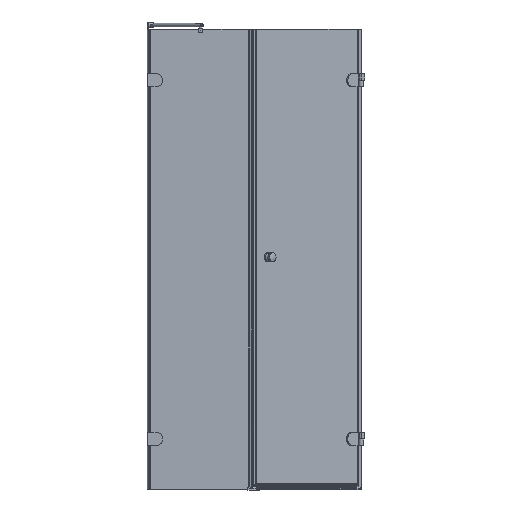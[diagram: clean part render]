
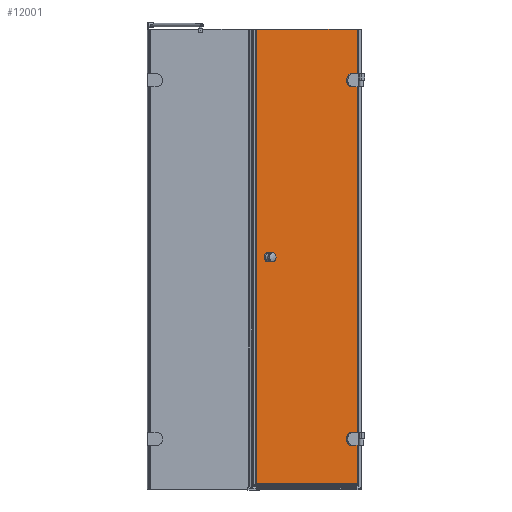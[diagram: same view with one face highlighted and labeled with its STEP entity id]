
A CAD part, front view. The second image highlights one B-rep face of the part: STEP entity #12001.
In plain terms, the highlighted planar face has unit normal (0.707, -0.707, 0).
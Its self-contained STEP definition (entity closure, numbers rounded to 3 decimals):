
#262=LINE($,#17847,#1460);
#264=LINE($,#17851,#1462);
#267=LINE($,#17858,#1465);
#312=LINE($,#17975,#1510);
#314=LINE($,#17979,#1512);
#317=LINE($,#17986,#1515);
#652=LINE($,#19076,#1850);
#661=LINE($,#19119,#1859);
#662=LINE($,#19121,#1860);
#663=LINE($,#19122,#1861);
#1460=VECTOR($,#14068,52.);
#1462=VECTOR($,#14072,23.);
#1465=VECTOR($,#14081,23.);
#1510=VECTOR($,#14192,52.);
#1512=VECTOR($,#14196,23.);
#1515=VECTOR($,#14205,23.);
#1850=VECTOR($,#15086,1875.4);
#1859=VECTOR($,#15119,590.4);
#1860=VECTOR($,#15120,1875.4);
#1861=VECTOR($,#15121,590.4);
#2618=FACE_BOUND($,#3857,.T.);
#2619=FACE_BOUND($,#3858,.T.);
#2620=FACE_BOUND($,#3859,.T.);
#3857=EDGE_LOOP($,(#8788,#8789,#8790,#8791));
#3858=EDGE_LOOP($,(#8792,#8793,#8794,#8795));
#3859=EDGE_LOOP($,(#8796,#8797,#8798,#8799));
#4346=CIRCLE($,#12599,26.);
#4358=CIRCLE($,#12636,26.);
#4822=VERTEX_POINT($,#17844);
#4823=VERTEX_POINT($,#17846);
#4824=VERTEX_POINT($,#17850);
#4825=VERTEX_POINT($,#17854);
#4863=VERTEX_POINT($,#17972);
#4864=VERTEX_POINT($,#17974);
#4865=VERTEX_POINT($,#17978);
#4866=VERTEX_POINT($,#17982);
#5185=VERTEX_POINT($,#19073);
#5186=VERTEX_POINT($,#19075);
#5195=VERTEX_POINT($,#19118);
#5196=VERTEX_POINT($,#19120);
#5932=EDGE_CURVE($,#4823,#4822,#262,.T.);
#5934=EDGE_CURVE($,#4824,#4823,#264,.T.);
#5936=EDGE_CURVE($,#4825,#4824,#4346,.T.);
#5938=EDGE_CURVE($,#4822,#4825,#267,.T.);
#5994=EDGE_CURVE($,#4864,#4863,#312,.T.);
#5996=EDGE_CURVE($,#4865,#4864,#314,.T.);
#5998=EDGE_CURVE($,#4866,#4865,#4358,.T.);
#6000=EDGE_CURVE($,#4863,#4866,#317,.T.);
#6461=EDGE_CURVE($,#5186,#5185,#652,.T.);
#6477=EDGE_CURVE($,#5185,#5195,#661,.T.);
#6478=EDGE_CURVE($,#5195,#5196,#662,.T.);
#6479=EDGE_CURVE($,#5186,#5196,#663,.T.);
#8788=ORIENTED_EDGE($,*,*,#5932,.T.);
#8789=ORIENTED_EDGE($,*,*,#5938,.T.);
#8790=ORIENTED_EDGE($,*,*,#5936,.T.);
#8791=ORIENTED_EDGE($,*,*,#5934,.T.);
#8792=ORIENTED_EDGE($,*,*,#5994,.T.);
#8793=ORIENTED_EDGE($,*,*,#6000,.T.);
#8794=ORIENTED_EDGE($,*,*,#5998,.T.);
#8795=ORIENTED_EDGE($,*,*,#5996,.T.);
#8796=ORIENTED_EDGE($,*,*,#6461,.T.);
#8797=ORIENTED_EDGE($,*,*,#6477,.T.);
#8798=ORIENTED_EDGE($,*,*,#6478,.T.);
#8799=ORIENTED_EDGE($,*,*,#6479,.F.);
#10727=PLANE($,#12922);
#12001=ADVANCED_FACE($,(#2618,#2619,#2620),#10727,.T.);
#12599=AXIS2_PLACEMENT_3D($,#17855,#14076,#14077);
#12636=AXIS2_PLACEMENT_3D($,#17983,#14200,#14201);
#12922=AXIS2_PLACEMENT_3D($,#19117,#15117,#15118);
#14068=DIRECTION($,(0.,0.,-1.));
#14072=DIRECTION($,(0.707,0.707,0.));
#14076=DIRECTION('center_axis',(-0.707,0.707,0.));
#14077=DIRECTION('ref_axis',(0.,0.,
-1.));
#14081=DIRECTION($,(-0.707,-0.707,0.));
#14192=DIRECTION($,(0.,0.,-1.));
#14196=DIRECTION($,(0.707,0.707,0.));
#14200=DIRECTION('center_axis',(-0.707,0.707,0.));
#14201=DIRECTION('ref_axis',(0.,0.,
-1.));
#14205=DIRECTION($,(-0.707,-0.707,0.));
#15086=DIRECTION($,(0.,0.,-1.));
#15117=DIRECTION('center_axis',(0.707,-0.707,0.));
#15118=DIRECTION('ref_axis',(0.707,0.707,0.));
#15119=DIRECTION($,(0.707,0.707,0.));
#15120=DIRECTION($,(0.,0.,1.));
#15121=DIRECTION($,(0.707,0.707,0.));
#17844=CARTESIAN_POINT('',(1222.308,294.531,-255.056));
#17846=CARTESIAN_POINT('',(1222.308,294.531,-203.056));
#17847=CARTESIAN_POINT($,(1222.308,294.531,-311.056));
#17850=CARTESIAN_POINT('',(1206.045,278.268,-203.056));
#17851=CARTESIAN_POINT($,(1008.408,80.632,-203.056));
#17854=CARTESIAN_POINT('',(1206.045,278.268,-255.056));
#17855=CARTESIAN_POINT('Origin',(1206.045,278.268,-229.056));
#17858=CARTESIAN_POINT($,(1016.54,88.763,-255.056));
#17972=CARTESIAN_POINT('',(1222.308,294.531,1224.944));
#17974=CARTESIAN_POINT('',(1222.308,294.531,1276.944));
#17975=CARTESIAN_POINT($,(1222.308,294.531,428.944));
#17978=CARTESIAN_POINT('',(1206.045,278.268,1276.944));
#17979=CARTESIAN_POINT($,(1008.408,80.632,1276.944));
#17982=CARTESIAN_POINT('',(1206.045,278.268,1224.944));
#17983=CARTESIAN_POINT('Origin',(1206.045,278.268,1250.944));
#17986=CARTESIAN_POINT($,(1016.54,88.763,1224.944));
#19073=CARTESIAN_POINT('',(814.025,-113.752,-414.456));
#19075=CARTESIAN_POINT('',(814.025,-113.752,1460.944));
#19076=CARTESIAN_POINT($,(814.025,-113.752,1460.944));
#19117=CARTESIAN_POINT('Origin',(810.772,-117.005,-419.056));
#19118=CARTESIAN_POINT('',(1231.5,303.724,-414.456));
#19119=CARTESIAN_POINT($,(803.701,-124.076,-414.456));
#19120=CARTESIAN_POINT('',(1231.5,303.724,1460.944));
#19121=CARTESIAN_POINT($,(1231.5,303.724,-419.056));
#19122=CARTESIAN_POINT($,(810.772,-117.005,1460.944));
